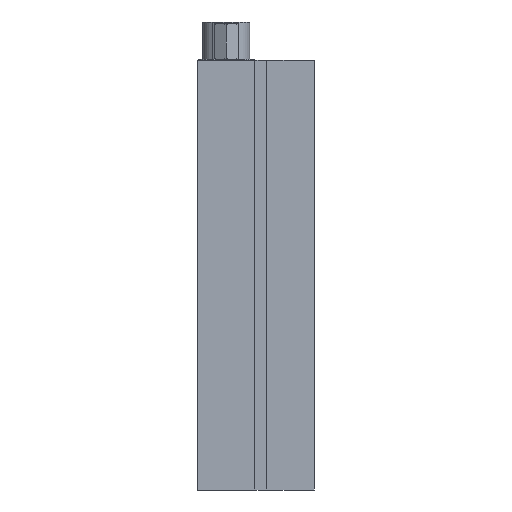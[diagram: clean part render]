
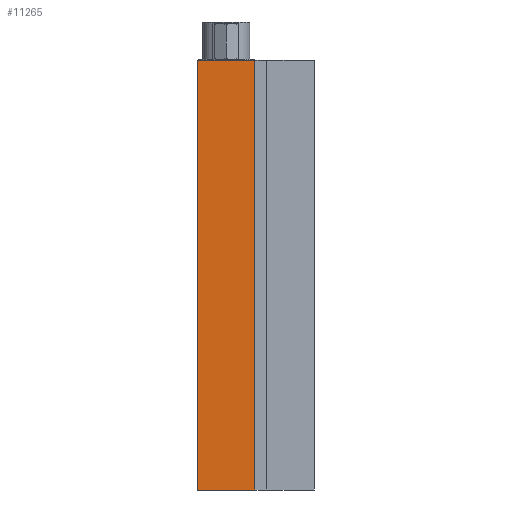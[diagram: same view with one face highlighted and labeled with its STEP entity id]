
A CAD part, left-side view. The second image highlights one B-rep face of the part: STEP entity #11265.
In plain terms, the highlighted planar face has unit normal (-1, 0, 0) as drawn and (1, 0, 0) by its records, which use the part's own axes.
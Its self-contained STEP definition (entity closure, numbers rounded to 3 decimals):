
#1777 = ORIENTED_EDGE ( 'NONE', *, *, #9817, .F. ) ;
#2141 = DIRECTION ( 'NONE',  ( 0., 0., 1. ) ) ;
#2208 = VECTOR ( 'NONE', #2141, 1000. ) ;
#2919 = ORIENTED_EDGE ( 'NONE', *, *, #3598, .F. ) ;
#3441 = PLANE ( 'NONE',  #10683 ) ;
#3598 = EDGE_CURVE ( 'NONE', #6657, #8538, #3719, .T. ) ;
#3683 = VERTEX_POINT ( 'NONE', #8372 ) ;
#3719 = LINE ( 'NONE', #7423, #6321 ) ;
#4225 = ORIENTED_EDGE ( 'NONE', *, *, #7828, .F. ) ;
#5203 = VERTEX_POINT ( 'NONE', #10801 ) ;
#5481 = LINE ( 'NONE', #9941, #2208 ) ;
#5886 = LINE ( 'NONE', #10363, #12180 ) ;
#6029 = FACE_OUTER_BOUND ( 'NONE', #12029, .T. ) ;
#6321 = VECTOR ( 'NONE', #8582, 1000. ) ;
#6629 = ORIENTED_EDGE ( 'NONE', *, *, #12198, .T. ) ;
#6639 = VECTOR ( 'NONE', #7273, 1000. ) ;
#6657 = VERTEX_POINT ( 'NONE', #6790 ) ;
#6790 = CARTESIAN_POINT ( 'NONE',  ( 0., -57.15, 0. ) ) ;
#7083 = DIRECTION ( 'NONE',  ( 0., -1., 0. ) ) ;
#7273 = DIRECTION ( 'NONE',  ( 0., 1., 0. ) ) ;
#7423 = CARTESIAN_POINT ( 'NONE',  ( 0., -57.15, 7.62 ) ) ;
#7828 = EDGE_CURVE ( 'NONE', #8538, #3683, #7830, .T. ) ;
#7830 = LINE ( 'NONE', #11280, #6639 ) ;
#8235 = CARTESIAN_POINT ( 'NONE',  ( 0., -57.15, 7.62 ) ) ;
#8372 = CARTESIAN_POINT ( 'NONE',  ( 0., 0., 7.62 ) ) ;
#8538 = VERTEX_POINT ( 'NONE', #8235 ) ;
#8582 = DIRECTION ( 'NONE',  ( 0., 0., 1. ) ) ;
#8975 = CARTESIAN_POINT ( 'NONE',  ( 0., -57.15, 7.62 ) ) ;
#9817 = EDGE_CURVE ( 'NONE', #5203, #6657, #5886, .T. ) ;
#9941 = CARTESIAN_POINT ( 'NONE',  ( 0., 0., 7.62 ) ) ;
#10363 = CARTESIAN_POINT ( 'NONE',  ( 0., -57.15, 0. ) ) ;
#10683 = AXIS2_PLACEMENT_3D ( 'NONE', #8975, #11157, #12204 ) ;
#10801 = CARTESIAN_POINT ( 'NONE',  ( 0., 0., 0. ) ) ;
#11157 = DIRECTION ( 'NONE',  ( -1., 0., 0. ) ) ;
#11265 = ADVANCED_FACE ( 'NONE', ( #6029 ), #3441, .F. ) ;
#11280 = CARTESIAN_POINT ( 'NONE',  ( 0., 0., 7.62 ) ) ;
#12029 = EDGE_LOOP ( 'NONE', ( #6629, #4225, #2919, #1777 ) ) ;
#12180 = VECTOR ( 'NONE', #7083, 1000. ) ;
#12198 = EDGE_CURVE ( 'NONE', #5203, #3683, #5481, .T. ) ;
#12204 = DIRECTION ( 'NONE',  ( 0., 0., 1. ) ) ;
